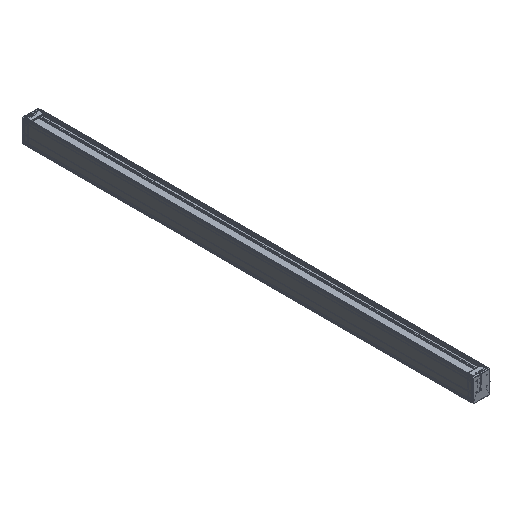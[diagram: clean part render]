
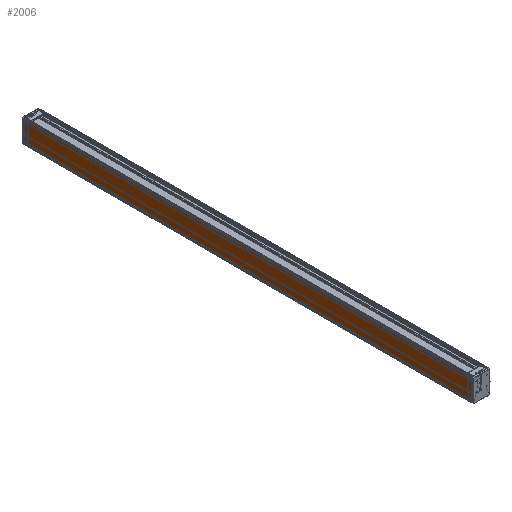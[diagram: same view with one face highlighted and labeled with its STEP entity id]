
A CAD part, isometric view. The second image highlights one B-rep face of the part: STEP entity #2006.
In plain terms, the highlighted free-form (B-spline) face has degree [2, 1] with [3, 2] control points.
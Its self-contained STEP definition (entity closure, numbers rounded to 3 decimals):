
#2006=ADVANCED_FACE('',(#4012),#72726,.T.);
#4012=FACE_OUTER_BOUND('',#6104,.T.);
#6104=EDGE_LOOP('',(#16480,#16481,#16482,#16483));
#16480=ORIENTED_EDGE('',*,*,#53042,.T.);
#16481=ORIENTED_EDGE('',*,*,#53043,.T.);
#16482=ORIENTED_EDGE('',*,*,#53044,.T.);
#16483=ORIENTED_EDGE('',*,*,#53040,.F.);
#18826=(
BOUNDED_CURVE()
B_SPLINE_CURVE(1,(#161265,#161266),.UNSPECIFIED.,.F.,.F.)
B_SPLINE_CURVE_WITH_KNOTS((2,2),(0.,1500.),.UNSPECIFIED.)
CURVE()
GEOMETRIC_REPRESENTATION_ITEM()
RATIONAL_B_SPLINE_CURVE((1.,1.))
REPRESENTATION_ITEM('')
);
#18828=(
BOUNDED_CURVE()
B_SPLINE_CURVE(2,(#161276,#161277,#161278),.UNSPECIFIED.,.F.,.F.)
B_SPLINE_CURVE_WITH_KNOTS((3,3),(-509.152,-435.152),
 .UNSPECIFIED.)
CURVE()
GEOMETRIC_REPRESENTATION_ITEM()
RATIONAL_B_SPLINE_CURVE((1.,1.,1.))
REPRESENTATION_ITEM('')
);
#18829=(
BOUNDED_CURVE()
B_SPLINE_CURVE(1,(#161281,#161282),.UNSPECIFIED.,.F.,.F.)
B_SPLINE_CURVE_WITH_KNOTS((2,2),(0.,1500.),.UNSPECIFIED.)
CURVE()
GEOMETRIC_REPRESENTATION_ITEM()
RATIONAL_B_SPLINE_CURVE((1.,1.))
REPRESENTATION_ITEM('')
);
#18830=(
BOUNDED_CURVE()
B_SPLINE_CURVE(2,(#161285,#161286,#161287),.UNSPECIFIED.,.F.,.F.)
B_SPLINE_CURVE_WITH_KNOTS((3,3),(435.152,509.152),
 .UNSPECIFIED.)
CURVE()
GEOMETRIC_REPRESENTATION_ITEM()
RATIONAL_B_SPLINE_CURVE((1.,1.,1.))
REPRESENTATION_ITEM('')
);
#19186=(
BOUNDED_CURVE()
B_SPLINE_CURVE(2,(#162887,#162888,#162889),.UNSPECIFIED.,.F.,.F.)
B_SPLINE_CURVE_WITH_KNOTS((3,3),(435.152,509.152),
 .UNSPECIFIED.)
CURVE()
GEOMETRIC_REPRESENTATION_ITEM()
RATIONAL_B_SPLINE_CURVE((1.,1.,1.))
REPRESENTATION_ITEM('')
);
#19402=(
BOUNDED_CURVE()
B_SPLINE_CURVE(2,(#163868,#163869,#163870),.UNSPECIFIED.,.F.,.F.)
B_SPLINE_CURVE_WITH_KNOTS((3,3),(-509.152,-435.152),
 .UNSPECIFIED.)
CURVE()
GEOMETRIC_REPRESENTATION_ITEM()
RATIONAL_B_SPLINE_CURVE((1.,1.,1.))
REPRESENTATION_ITEM('')
);
#29849=PCURVE('',#72725,#41133);
#29852=PCURVE('',#72726,#41136);
#29853=PCURVE('',#72726,#41137);
#29854=PCURVE('',#72726,#41138);
#29855=PCURVE('',#72726,#41139);
#29859=PCURVE('',#72727,#41143);
#30242=PCURVE('',#73969,#41526);
#30437=PCURVE('',#73972,#41721);
#41133=DEFINITIONAL_REPRESENTATION('',(#67617),#165295);
#41136=DEFINITIONAL_REPRESENTATION('',(#67620),#165295);
#41137=DEFINITIONAL_REPRESENTATION('',(#67621),#165295);
#41138=DEFINITIONAL_REPRESENTATION('',(#67622),#165295);
#41139=DEFINITIONAL_REPRESENTATION('',(#67623),#165295);
#41143=DEFINITIONAL_REPRESENTATION('',(#67627),#165295);
#41526=DEFINITIONAL_REPRESENTATION('',(#19186),#165295);
#41721=DEFINITIONAL_REPRESENTATION('',(#19402),#165295);
#47398=SURFACE_CURVE('',#18826,(#29849,#29855),.PCURVE_S1.);
#47400=SURFACE_CURVE('',#18828,(#29852,#30437),.PCURVE_S1.);
#47401=SURFACE_CURVE('',#18829,(#29853,#29859),.PCURVE_S1.);
#47402=SURFACE_CURVE('',#18830,(#29854,#30242),.PCURVE_S1.);
#53040=EDGE_CURVE('',#71686,#71687,#47398,.T.);
#53042=EDGE_CURVE('',#71686,#71688,#47400,.T.);
#53043=EDGE_CURVE('',#71688,#71689,#47401,.T.);
#53044=EDGE_CURVE('',#71689,#71687,#47402,.T.);
#67617=B_SPLINE_CURVE_WITH_KNOTS('',1,(#161267,#161268),.UNSPECIFIED.,.F.,
 .F.,(2,2),(0.,1500.),.UNSPECIFIED.);
#67620=B_SPLINE_CURVE_WITH_KNOTS('',1,(#161279,#161280),.UNSPECIFIED.,.F.,
 .F.,(2,2),(-509.152,-435.152),.UNSPECIFIED.);
#67621=B_SPLINE_CURVE_WITH_KNOTS('',1,(#161283,#161284),.UNSPECIFIED.,.F.,
 .F.,(2,2),(0.,1500.),.UNSPECIFIED.);
#67622=B_SPLINE_CURVE_WITH_KNOTS('',1,(#161288,#161289),.UNSPECIFIED.,.F.,
 .F.,(2,2),(435.152,509.152),.UNSPECIFIED.);
#67623=B_SPLINE_CURVE_WITH_KNOTS('',1,(#161290,#161291),.UNSPECIFIED.,.F.,
 .F.,(2,2),(0.,1500.),.UNSPECIFIED.);
#67627=B_SPLINE_CURVE_WITH_KNOTS('',1,(#161306,#161307),.UNSPECIFIED.,.F.,
 .F.,(2,2),(0.,1500.),.UNSPECIFIED.);
#71686=VERTEX_POINT('',#159418);
#71687=VERTEX_POINT('',#159419);
#71688=VERTEX_POINT('',#159420);
#71689=VERTEX_POINT('',#159421);
#72725=(
BOUNDED_SURFACE()
B_SPLINE_SURFACE(2,1,((#158418,#158419),(#158420,#158421),(#158422,#158423)),
 .UNSPECIFIED.,.F.,.F.,.F.)
B_SPLINE_SURFACE_WITH_KNOTS((3,3),(2,2),(-509.937,-509.152),
(0.,1500.),.UNSPECIFIED.)
GEOMETRIC_REPRESENTATION_ITEM()
RATIONAL_B_SPLINE_SURFACE(((1.,1.),(0.707,0.707),
(1.,1.)))
REPRESENTATION_ITEM('')
SURFACE()
);
#72726=(
BOUNDED_SURFACE()
B_SPLINE_SURFACE(2,1,((#158424,#158425),(#158426,#158427),(#158428,#158429)),
 .UNSPECIFIED.,.F.,.F.,.F.)
B_SPLINE_SURFACE_WITH_KNOTS((3,3),(2,2),(-509.152,-435.152),
(0.,1500.),.UNSPECIFIED.)
GEOMETRIC_REPRESENTATION_ITEM()
RATIONAL_B_SPLINE_SURFACE(((1.,1.),(1.,1.),(1.,1.)))
REPRESENTATION_ITEM('')
SURFACE()
);
#72727=(
BOUNDED_SURFACE()
B_SPLINE_SURFACE(2,1,((#158430,#158431),(#158432,#158433),(#158434,#158435)),
 .UNSPECIFIED.,.F.,.F.,.F.)
B_SPLINE_SURFACE_WITH_KNOTS((3,3),(2,2),(-435.152,-434.366),
(0.,1500.),.UNSPECIFIED.)
GEOMETRIC_REPRESENTATION_ITEM()
RATIONAL_B_SPLINE_SURFACE(((1.,1.),(0.707,0.707),
(1.,1.)))
REPRESENTATION_ITEM('')
SURFACE()
);
#73969=B_SPLINE_SURFACE_WITH_KNOTS('',1,1,((#159192,#159193),(#159194,#159195)),
 .UNSPECIFIED.,.F.,.F.,.F.,(2,2),(2,2),(-52.575,16.175),(-34.998,
58.752),.UNSPECIFIED.);
#73972=B_SPLINE_SURFACE_WITH_KNOTS('',1,1,((#159204,#159205),(#159206,#159207)),
 .UNSPECIFIED.,.F.,.F.,.F.,(2,2),(2,2),(-34.998,58.752),
(-52.575,16.175),.UNSPECIFIED.);
#158418=CARTESIAN_POINT('',(-27.,-750.,0.));
#158419=CARTESIAN_POINT('',(-27.,750.,0.));
#158420=CARTESIAN_POINT('',(-27.5,-750.,0.));
#158421=CARTESIAN_POINT('',(-27.5,750.,0.));
#158422=CARTESIAN_POINT('',(-27.5,-750.,0.5));
#158423=CARTESIAN_POINT('',(-27.5,750.,0.5));
#158424=CARTESIAN_POINT('',(-27.5,-750.,0.5));
#158425=CARTESIAN_POINT('',(-27.5,750.,0.5));
#158426=CARTESIAN_POINT('',(-27.5,-750.,37.5));
#158427=CARTESIAN_POINT('',(-27.5,750.,37.5));
#158428=CARTESIAN_POINT('',(-27.5,-750.,74.5));
#158429=CARTESIAN_POINT('',(-27.5,750.,74.5));
#158430=CARTESIAN_POINT('',(-27.5,-750.,74.5));
#158431=CARTESIAN_POINT('',(-27.5,750.,74.5));
#158432=CARTESIAN_POINT('',(-27.5,-750.,75.));
#158433=CARTESIAN_POINT('',(-27.5,750.,75.));
#158434=CARTESIAN_POINT('',(-27.,-750.,75.));
#158435=CARTESIAN_POINT('',(-27.,750.,75.));
#159192=CARTESIAN_POINT('',(34.375,750.,-9.375));
#159193=CARTESIAN_POINT('',(34.375,750.,84.375));
#159194=CARTESIAN_POINT('',(-34.375,750.,-9.375));
#159195=CARTESIAN_POINT('',(-34.375,750.,84.375));
#159204=CARTESIAN_POINT('',(34.375,-750.,-9.375));
#159205=CARTESIAN_POINT('',(-34.375,-750.,-9.375));
#159206=CARTESIAN_POINT('',(34.375,-750.,84.375));
#159207=CARTESIAN_POINT('',(-34.375,-750.,84.375));
#159418=CARTESIAN_POINT('',(-27.5,-750.,0.5));
#159419=CARTESIAN_POINT('',(-27.5,750.,0.5));
#159420=CARTESIAN_POINT('',(-27.5,-750.,74.5));
#159421=CARTESIAN_POINT('',(-27.5,750.,74.5));
#161265=CARTESIAN_POINT('',(-27.5,-750.,0.5));
#161266=CARTESIAN_POINT('',(-27.5,750.,0.5));
#161267=CARTESIAN_POINT('',(-509.152,0.));
#161268=CARTESIAN_POINT('',(-509.152,1500.));
#161276=CARTESIAN_POINT('',(-27.5,-750.,0.5));
#161277=CARTESIAN_POINT('',(-27.5,-750.,37.5));
#161278=CARTESIAN_POINT('',(-27.5,-750.,74.5));
#161279=CARTESIAN_POINT('',(-509.152,0.));
#161280=CARTESIAN_POINT('',(-435.152,0.));
#161281=CARTESIAN_POINT('',(-27.5,-750.,74.5));
#161282=CARTESIAN_POINT('',(-27.5,750.,74.5));
#161283=CARTESIAN_POINT('',(-435.152,0.));
#161284=CARTESIAN_POINT('',(-435.152,1500.));
#161285=CARTESIAN_POINT('',(-27.5,750.,74.5));
#161286=CARTESIAN_POINT('',(-27.5,750.,37.5));
#161287=CARTESIAN_POINT('',(-27.5,750.,0.5));
#161288=CARTESIAN_POINT('',(-435.152,1500.));
#161289=CARTESIAN_POINT('',(-509.152,1500.));
#161290=CARTESIAN_POINT('',(-509.152,0.));
#161291=CARTESIAN_POINT('',(-509.152,1500.));
#161306=CARTESIAN_POINT('',(-435.152,0.));
#161307=CARTESIAN_POINT('',(-435.152,1500.));
#162887=CARTESIAN_POINT('',(9.3,48.877));
#162888=CARTESIAN_POINT('',(9.3,11.877));
#162889=CARTESIAN_POINT('',(9.3,-25.123));
#163868=CARTESIAN_POINT('',(-25.123,9.3));
#163869=CARTESIAN_POINT('',(11.877,9.3));
#163870=CARTESIAN_POINT('',(48.877,9.3));
#165295=(
GEOMETRIC_REPRESENTATION_CONTEXT(2)
PARAMETRIC_REPRESENTATION_CONTEXT()
REPRESENTATION_CONTEXT('pspace','')
);
